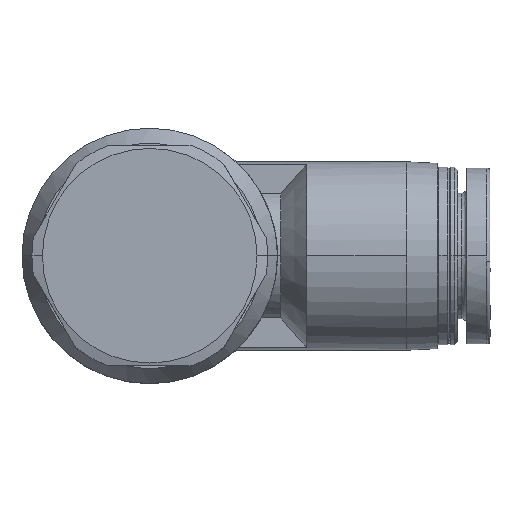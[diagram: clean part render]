
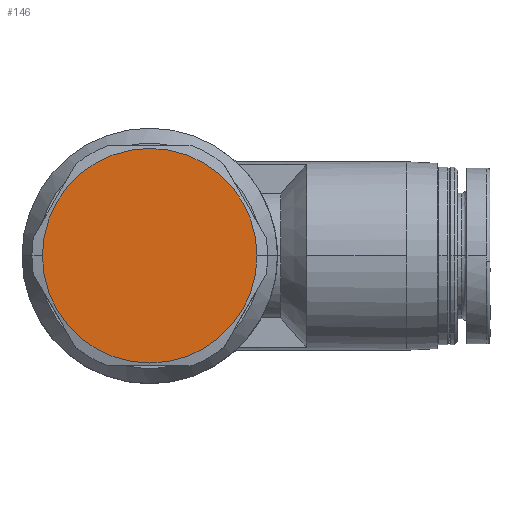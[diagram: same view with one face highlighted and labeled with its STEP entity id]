
A CAD part, top view. The second image highlights one B-rep face of the part: STEP entity #146.
In plain terms, the highlighted planar face has unit normal (0, 0, 1).
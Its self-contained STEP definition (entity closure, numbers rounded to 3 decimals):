
#91 = DIRECTION ( 'NONE',  ( -1., 0., 0. ) ) ;
#101 = CARTESIAN_POINT ( 'NONE',  ( 10.75, 10.75, 36. ) ) ;
#146 = ADVANCED_FACE ( '35', ( #1279 ), #361, .T. ) ;
#361 = PLANE ( 'NONE',  #562 ) ;
#404 = VERTEX_POINT ( 'NONE', #992 ) ;
#562 = AXIS2_PLACEMENT_3D ( 'NONE', #101, #1519, #2497 ) ;
#628 = ORIENTED_EDGE ( 'NONE', *, *, #2817, .F. ) ;
#835 = ORIENTED_EDGE ( 'NONE', *, *, #2519, .F. ) ;
#850 = VERTEX_POINT ( 'NONE', #862 ) ;
#862 = CARTESIAN_POINT ( 'NONE',  ( -10.25, 0., 36. ) ) ;
#992 = CARTESIAN_POINT ( 'NONE',  ( 10.25, 0., 36. ) ) ;
#1279 = FACE_OUTER_BOUND ( 'NONE', #2428, .T. ) ;
#1333 = CARTESIAN_POINT ( 'NONE',  ( 0., 0., 36. ) ) ;
#1519 = DIRECTION ( 'NONE',  ( 0., 0., 1. ) ) ;
#1762 = AXIS2_PLACEMENT_3D ( 'NONE', #2120, #3114, #2830 ) ;
#2120 = CARTESIAN_POINT ( 'NONE',  ( 0., 0., 36. ) ) ;
#2428 = EDGE_LOOP ( 'NONE', ( #835, #628 ) ) ;
#2497 = DIRECTION ( 'NONE',  ( 1., 0., 0. ) ) ;
#2519 = EDGE_CURVE ( 'NONE', #850, #404, #3146, .T. ) ;
#2524 = CIRCLE ( 'NONE', #1762, 10.25 ) ;
#2536 = DIRECTION ( 'NONE',  ( 0., 0., -1. ) ) ;
#2817 = EDGE_CURVE ( 'NONE', #404, #850, #2524, .T. ) ;
#2830 = DIRECTION ( 'NONE',  ( -1., 0., 0. ) ) ;
#3041 = AXIS2_PLACEMENT_3D ( 'NONE', #1333, #2536, #91 ) ;
#3114 = DIRECTION ( 'NONE',  ( 0., 0., -1. ) ) ;
#3146 = CIRCLE ( 'NONE', #3041, 10.25 ) ;
